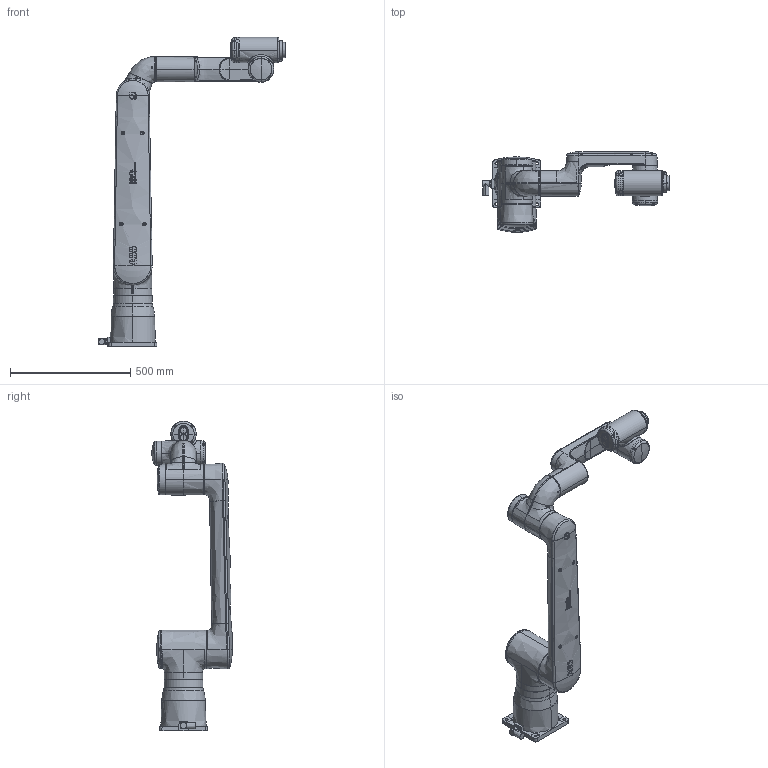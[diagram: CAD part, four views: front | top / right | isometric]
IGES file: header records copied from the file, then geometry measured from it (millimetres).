
Start section: SolidWorks IGES file using analytic representation for surfaces
Global section: file name: C:\data\sap_doc\500000125163\M12\Ready\CRB15000_12kg-127_Omnicore_rev00_ASM_CAD.IGS; native system: SolidWorks 2022; preprocessor: SolidWorks 2022; author: CNTAFEN; date: 230711.105526; units: millimetre
Bounding box: 776.8 x 336.66 x 1287.75 mm (x, y, z)
Surface area: 1211047.8 mm2 (no closed solid volume)
Topology: 0 solids, 0 shells, 1579 faces, 23766 edges, 23730 vertices
Faces by surface type: bspline 1113, revolution 466
